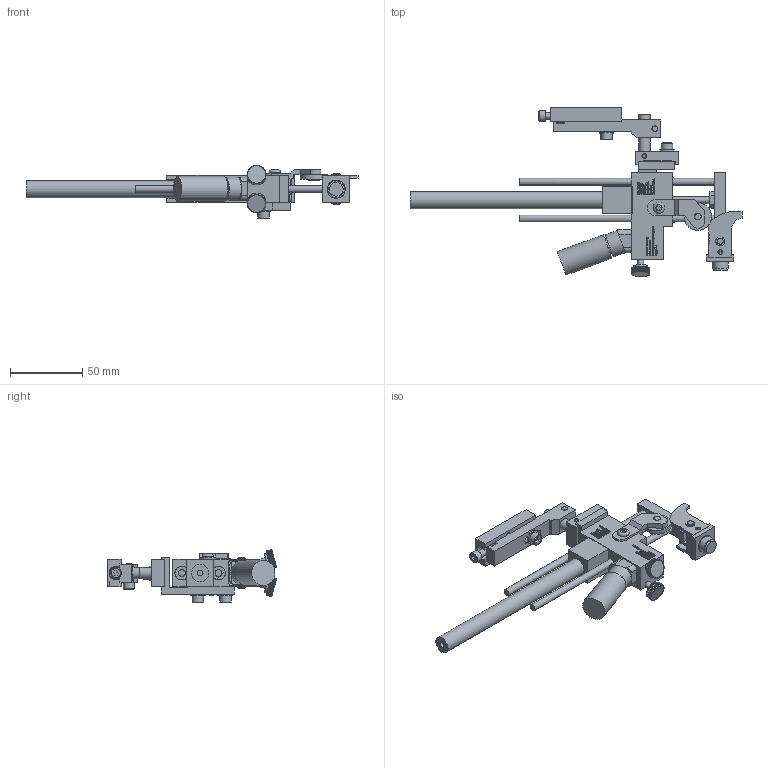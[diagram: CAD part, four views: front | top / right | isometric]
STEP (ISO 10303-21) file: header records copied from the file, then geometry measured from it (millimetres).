
FILE_DESCRIPTION((''),'2;1');
FILE_NAME('C:\Documents and Settings\Ron\My Documents\Inventor\Sprinter Drawing\Machines in Inventor\Model 44\Dot\3-eight\Ext Str\E2\Brkt\90\Model 44 E2 .375 Dia Dot 90 Deg w brkt.stp','2009-01-23T08:02:58',('Ron'),(''),'Autodesk Inventor 2008','Autodesk Inventor 2008','');
FILE_SCHEMA(('AUTOMOTIVE_DESIGN { 1 0 10303 214 1 1 1 1 }'));
Length unit declared in the file: inch
Products named in the file (1): Model 44 E2 .375 Dia Dot 90 Deg w brkt
Bounding box: 230.15 x 117.12 x 36.82 mm (x, y, z)
Volume: 111660 mm3; surface area: 54133.2 mm2
Topology: 383 solids, 383 shells, 6213 faces, 15431 edges, 9546 vertices
Faces by surface type: plane 4366, bspline 1320, cylinder 473, cone 48, torus 6
Full cylindrical faces by diameter (mm): 3.175 x4, 3.302 x1, 3.962 x1, 4.064 x6, 4.166 x1, 4.699 x1, 4.75 x4, 4.775 x1, 4.826 x7, 5.144 x1, 5.156 x5, 5.207 x2, 5.41 x2, 6.096 x1, 6.274 x2, 7.239 x1, 7.62 x1, 7.925 x7, 7.938 x1, 8.128 x1, 9.017 x1, 9.525 x3, 10.312 x4, 10.922 x1, 11.036 x1, 11.303 x1, 11.938 x2, 12.522 x1, 14.478 x1, 16.256 x1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
Entity records: 197925 total; most frequent: CARTESIAN_POINT 54157, ORIENTED_EDGE 30410, DIRECTION 23651, EDGE_CURVE 15205, VECTOR 11401, LINE 11401, VERTEX_POINT 9480, EDGE_LOOP 6779
